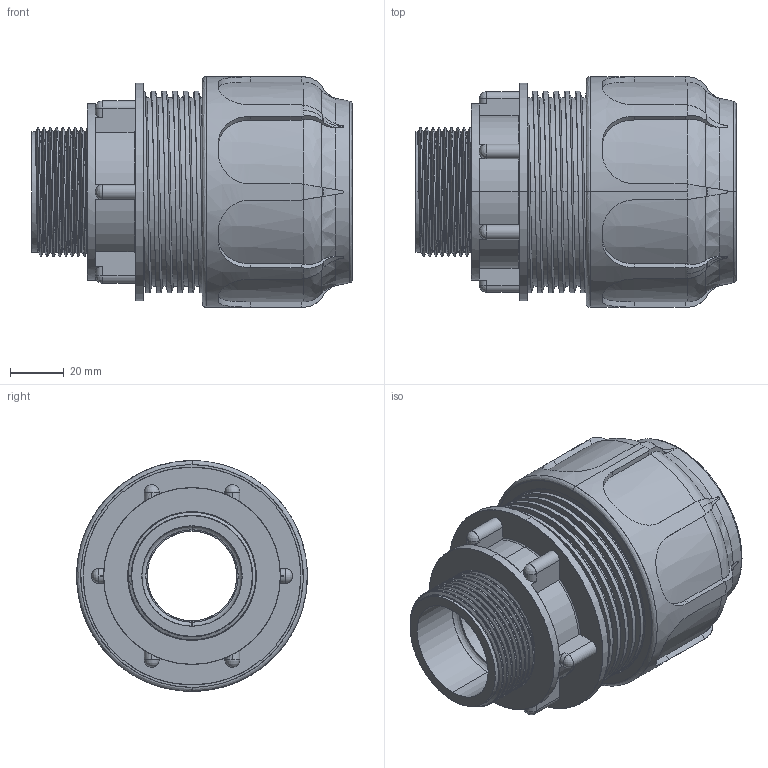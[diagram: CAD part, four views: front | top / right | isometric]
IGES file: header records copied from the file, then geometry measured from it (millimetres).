
Start section: SolidWorks IGES file using analytic representation for surfaces
Global section: file name: P:\DisegniUfficioTecnico\Articoli\ARTICOLI_3D\DISEGNI_STEP_IGS_SITO\02004\02004_IGS\02004.1140.IGS; native system: SolidWorks 2011; preprocessor: SolidWorks 2011; author: giacomo; date: 170522.162100; units: millimetre
Bounding box: 119 x 85.8 x 85.8 mm (x, y, z)
Surface area: 115908.4 mm2 (no closed solid volume)
Topology: 0 solids, 0 shells, 446 faces, 8606 edges, 8599 vertices
Faces by surface type: bspline 253, revolution 193
